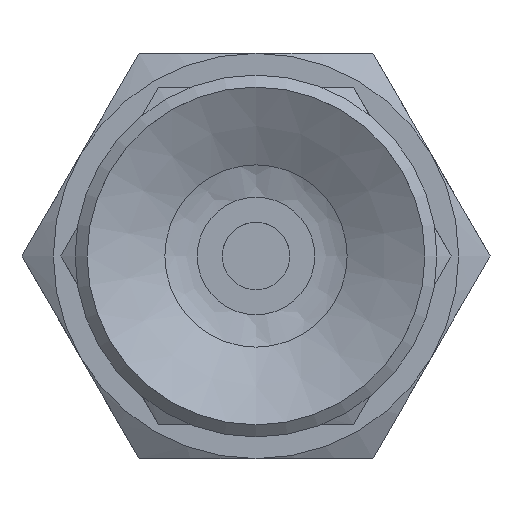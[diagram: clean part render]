
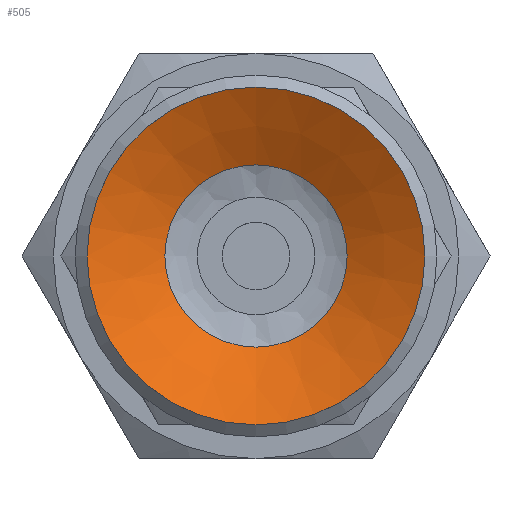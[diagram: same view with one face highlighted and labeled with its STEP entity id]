
A CAD part, front view. The second image highlights one B-rep face of the part: STEP entity #505.
In plain terms, the highlighted conical face has half-angle 61.39 degrees and reference radius 2.25 mm.
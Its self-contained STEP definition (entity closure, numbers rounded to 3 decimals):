
#505=ADVANCED_FACE('',(#777,#778),#779,.F.);
#777=FACE_BOUND('',#1064,.T.);
#778=FACE_OUTER_BOUND('',#1065,.T.);
#779=CONICAL_SURFACE('',#1066,2.25,1.071);
#1064=EDGE_LOOP('',(#1848));
#1065=EDGE_LOOP('',(#1849));
#1066=AXIS2_PLACEMENT_3D('',#1850,#1851,#1852);
#1848=ORIENTED_EDGE('',*,*,#2091,.T.);
#1849=ORIENTED_EDGE('',*,*,#2086,.T.);
#1850=CARTESIAN_POINT('',(0.0,1.5,0.0));
#1851=DIRECTION('',(-0.0,-1.0,0.));
#1852=DIRECTION('',(0.0,0.,-1.0));
#2086=EDGE_CURVE('',#2434,#2434,#2435,.T.);
#2091=EDGE_CURVE('',#2444,#2444,#2445,.T.);
#2434=VERTEX_POINT('',#3214);
#2435=CIRCLE('',#3215,5.);
#2444=VERTEX_POINT('',#3224);
#2445=CIRCLE('',#3225,2.698);
#3214=CARTESIAN_POINT('',(0.0,0.,-5.));
#3215=AXIS2_PLACEMENT_3D('',#3519,#3520,#3521);
#3224=CARTESIAN_POINT('',(0.0,1.256,-2.698));
#3225=AXIS2_PLACEMENT_3D('',#3534,#3535,#3536);
#3519=CARTESIAN_POINT('',(0.0,0.0,0.0));
#3520=DIRECTION('',(0.0,-1.0,0.));
#3521=DIRECTION('',(0.0,0.,-1.0));
#3534=CARTESIAN_POINT('',(0.0,1.256,0.0));
#3535=DIRECTION('',(0.0,1.0,0.));
#3536=DIRECTION('',(0.0,0.,-1.0));
